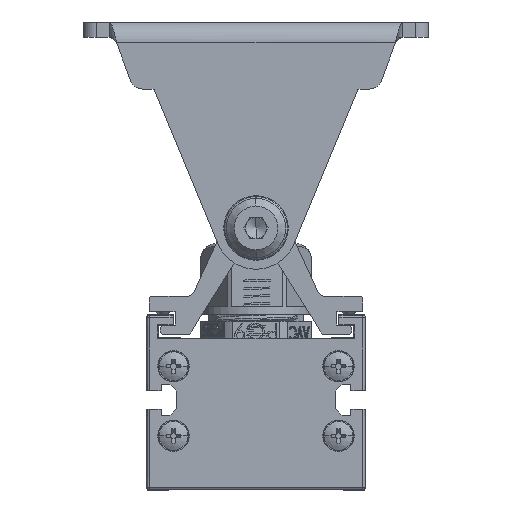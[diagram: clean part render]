
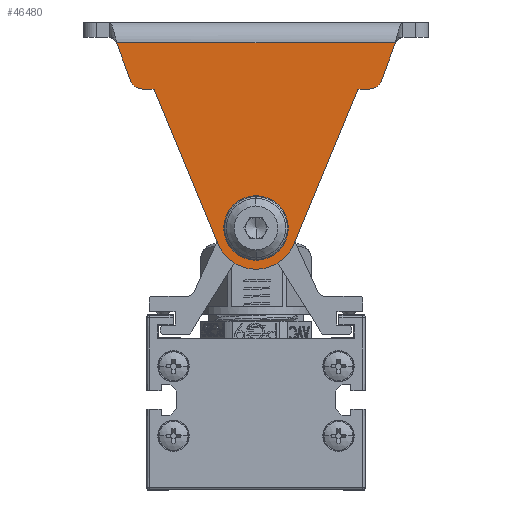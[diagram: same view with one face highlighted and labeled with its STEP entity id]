
A CAD part, front view. The second image highlights one B-rep face of the part: STEP entity #46480.
In plain terms, the highlighted planar face has unit normal (0, -1, 0) as drawn and (0, 0, -1) by its records, which use the part's own axes.
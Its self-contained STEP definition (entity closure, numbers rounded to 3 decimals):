
#45624=DIRECTION('',(-0.381,-0.924,0.));
#45625=VECTOR('',#45624,32.457);
#45626=CARTESIAN_POINT('',(-7.396,43.006,-18.));
#45627=LINE('',#45626,#45625);
#45628=DIRECTION('',(-1.,0.,0.));
#45629=VECTOR('',#45628,2.249);
#45630=CARTESIAN_POINT('',(-19.768,13.,-18.));
#45631=LINE('',#45630,#45629);
#45632=CARTESIAN_POINT('',(-22.018,10.5,-18.));
#45633=DIRECTION('',(0.,0.,1.));
#45634=DIRECTION('',(0.,1.,0.));
#45635=AXIS2_PLACEMENT_3D('',#45632,#45633,#45634);
#45637=DIRECTION('',(-0.342,-0.94,0.));
#45638=VECTOR('',#45637,7.827);
#45639=CARTESIAN_POINT('',(-24.367,11.355,-18.));
#45640=LINE('',#45639,#45638);
#45641=DIRECTION('',(-0.342,0.94,0.));
#45642=VECTOR('',#45641,7.827);
#45643=CARTESIAN_POINT('',(27.044,4.,-18.));
#45644=LINE('',#45643,#45642);
#45645=CARTESIAN_POINT('',(22.018,10.5,-18.));
#45646=DIRECTION('',(0.,0.,1.));
#45647=DIRECTION('',(0.94,0.342,0.));
#45648=AXIS2_PLACEMENT_3D('',#45645,#45646,#45647);
#45650=DIRECTION('',(-1.,0.,0.));
#45651=VECTOR('',#45650,2.249);
#45652=CARTESIAN_POINT('',(22.018,13.,-18.));
#45653=LINE('',#45652,#45651);
#45654=DIRECTION('',(-0.381,0.924,0.));
#45655=VECTOR('',#45654,32.457);
#45656=CARTESIAN_POINT('',(19.768,13.,-18.));
#45657=LINE('',#45656,#45655);
#45658=CARTESIAN_POINT('',(0.,39.957,-18.));
#45659=DIRECTION('',(0.,0.,1.));
#45660=DIRECTION('',(0.924,0.381,0.));
#45661=AXIS2_PLACEMENT_3D('',#45658,#45659,#45660);
#45663=CARTESIAN_POINT('',(0.,39.957,-18.));
#45664=DIRECTION('',(0.,0.,-1.));
#45665=DIRECTION('',(-1.,0.,0.));
#45666=AXIS2_PLACEMENT_3D('',#45663,#45664,#45665);
#45668=CARTESIAN_POINT('',(0.,39.957,-18.));
#45669=DIRECTION('',(0.,0.,-1.));
#45670=DIRECTION('',(1.,0.,0.));
#45671=AXIS2_PLACEMENT_3D('',#45668,#45669,#45670);
#45693=DIRECTION('',(-1.,0.,0.));
#45694=VECTOR('',#45693,54.088);
#45695=CARTESIAN_POINT('',(27.044,4.,-18.));
#45696=LINE('',#45695,#45694);
#46327=CARTESIAN_POINT('',(-7.396,43.006,-18.));
#46328=CARTESIAN_POINT('',(-19.768,13.,-18.));
#46329=VERTEX_POINT('',#46327);
#46330=VERTEX_POINT('',#46328);
#46331=CARTESIAN_POINT('',(-22.018,13.,-18.));
#46332=VERTEX_POINT('',#46331);
#46333=CARTESIAN_POINT('',(-24.367,11.355,-18.));
#46334=VERTEX_POINT('',#46333);
#46335=CARTESIAN_POINT('',(-27.044,4.,-18.));
#46336=VERTEX_POINT('',#46335);
#46337=CARTESIAN_POINT('',(27.044,4.,-18.));
#46338=VERTEX_POINT('',#46337);
#46339=CARTESIAN_POINT('',(24.367,11.355,-18.));
#46340=VERTEX_POINT('',#46339);
#46341=CARTESIAN_POINT('',(22.018,13.,-18.));
#46342=VERTEX_POINT('',#46341);
#46343=CARTESIAN_POINT('',(19.768,13.,-18.));
#46344=VERTEX_POINT('',#46343);
#46345=CARTESIAN_POINT('',(7.396,43.006,-18.));
#46346=VERTEX_POINT('',#46345);
#46347=CARTESIAN_POINT('',(-3.25,39.957,-18.));
#46348=CARTESIAN_POINT('',(3.25,39.957,-18.));
#46349=VERTEX_POINT('',#46347);
#46350=VERTEX_POINT('',#46348);
#46448=CARTESIAN_POINT('',(-33.5,0.,-18.));
#46449=DIRECTION('',(0.,0.,-1.));
#46450=DIRECTION('',(-1.,0.,0.));
#46451=AXIS2_PLACEMENT_3D('',#46448,#46449,#46450);
#46452=PLANE('',#46451);
#46453=ORIENTED_EDGE('',*,*,#46438,.T.);
#46455=ORIENTED_EDGE('',*,*,#46454,.T.);
#46457=ORIENTED_EDGE('',*,*,#46456,.T.);
#46459=ORIENTED_EDGE('',*,*,#46458,.T.);
#46461=ORIENTED_EDGE('',*,*,#46460,.F.);
#46463=ORIENTED_EDGE('',*,*,#46462,.T.);
#46465=ORIENTED_EDGE('',*,*,#46464,.T.);
#46467=ORIENTED_EDGE('',*,*,#46466,.T.);
#46469=ORIENTED_EDGE('',*,*,#46468,.T.);
#46471=ORIENTED_EDGE('',*,*,#46470,.T.);
#46472=EDGE_LOOP('',(#46453,#46455,#46457,#46459,#46461,#46463,#46465,#46467,
#46469,#46471));
#46473=FACE_OUTER_BOUND('',#46472,.F.);
#46475=ORIENTED_EDGE('',*,*,#46474,.T.);
#46477=ORIENTED_EDGE('',*,*,#46476,.T.);
#46478=EDGE_LOOP('',(#46475,#46477));
#46479=FACE_BOUND('',#46478,.F.);
#46480=ADVANCED_FACE('',(#46473,#46479),#46452,.T.);
#45636=CIRCLE('',#45635,2.5);
#45649=CIRCLE('',#45648,2.5);
#45662=CIRCLE('',#45661,8.);
#45667=CIRCLE('',#45666,3.25);
#45672=CIRCLE('',#45671,3.25);
#46438=EDGE_CURVE('',#46329,#46330,#45627,.T.);
#46454=EDGE_CURVE('',#46330,#46332,#45631,.T.);
#46456=EDGE_CURVE('',#46332,#46334,#45636,.T.);
#46458=EDGE_CURVE('',#46334,#46336,#45640,.T.);
#46460=EDGE_CURVE('',#46338,#46336,#45696,.T.);
#46462=EDGE_CURVE('',#46338,#46340,#45644,.T.);
#46464=EDGE_CURVE('',#46340,#46342,#45649,.T.);
#46466=EDGE_CURVE('',#46342,#46344,#45653,.T.);
#46468=EDGE_CURVE('',#46344,#46346,#45657,.T.);
#46470=EDGE_CURVE('',#46346,#46329,#45662,.T.);
#46474=EDGE_CURVE('',#46349,#46350,#45667,.T.);
#46476=EDGE_CURVE('',#46350,#46349,#45672,.T.);
